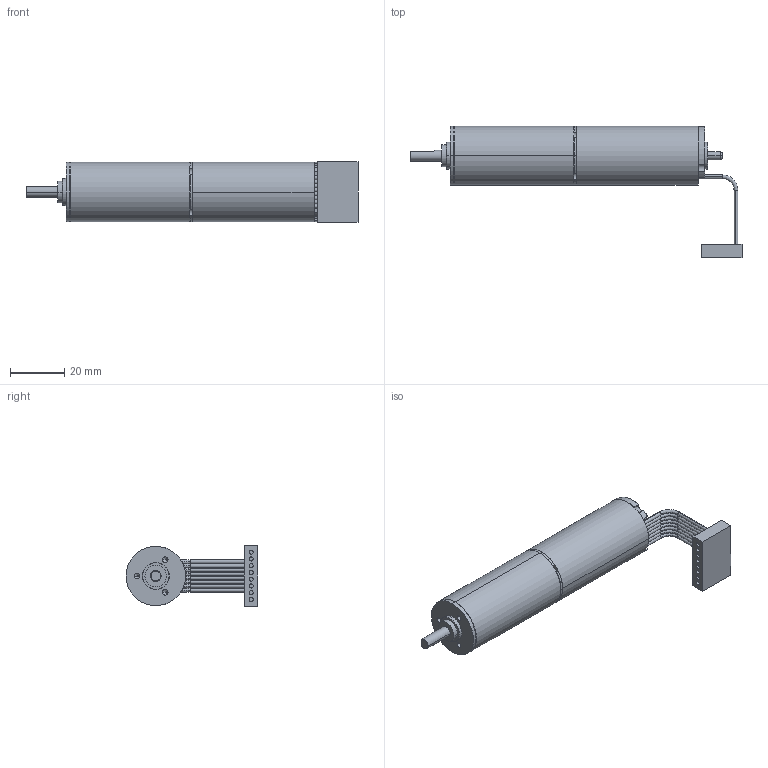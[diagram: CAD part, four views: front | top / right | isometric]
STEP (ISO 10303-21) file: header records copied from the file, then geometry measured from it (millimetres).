
FILE_DESCRIPTION (( 'STEP AP214' ), '1' );
FILE_NAME ('ECMax22L_+_GP022C 4etages.STEP', '2015-08-04T08:52:00', ( '' ), ( '' ), 'SwSTEP 2.0', 'SolidWorks 2014', '' );
FILE_SCHEMA (( 'AUTOMOTIVE_DESIGN' ));
Length unit declared in the file: millimetre
Products named in the file (3): GP022C_Etage 4; ECMax22L; ECMax22L_+_GP022C 4etages
Assembly tree (2 placements, depth 2):
  ECMax22L_+_GP022C 4etages
    ECMax22L
    GP022C_Etage 4
Bounding box: 122.9 x 48.8 x 22.4 mm (x, y, z)
Volume: 35396.9 mm3; surface area: 11677.2 mm2
Topology: 2 solids, 2 shells, 205 faces, 513 edges, 322 vertices
Faces by surface type: cylinder 110, cone 46, plane 33, bspline 16
Entity records: 7391 total; most frequent: CARTESIAN_POINT 1517, DIRECTION 1162, ORIENTED_EDGE 986, AXIS2_PLACEMENT_3D 495, EDGE_CURVE 493, VERTEX_POINT 322, CIRCLE 301, EDGE_LOOP 249
